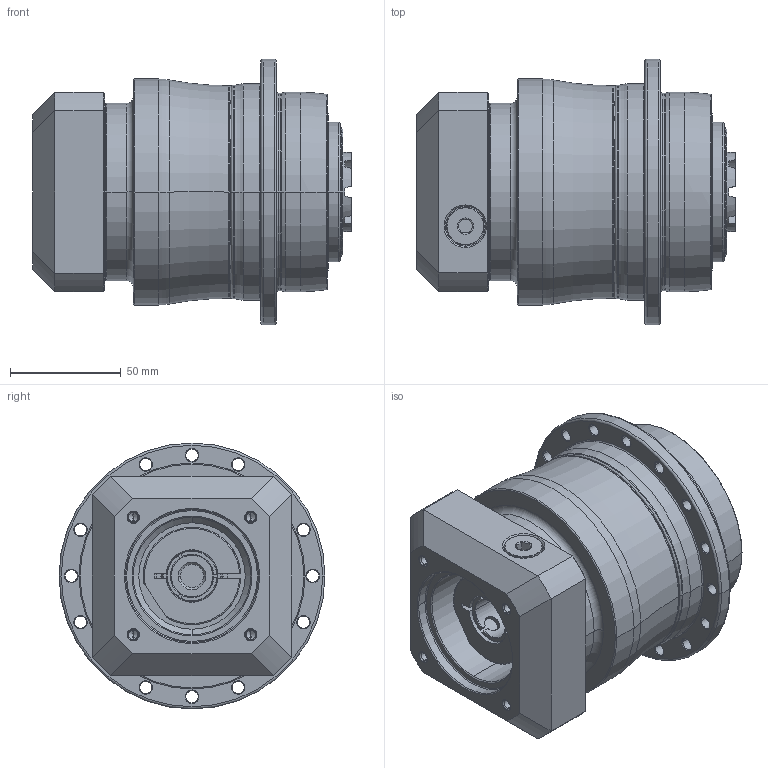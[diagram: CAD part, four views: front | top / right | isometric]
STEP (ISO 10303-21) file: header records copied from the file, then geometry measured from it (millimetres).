
FILE_DESCRIPTION((''),'2;1');
FILE_NAME('APC090_2ST_19-P0409400201_ASM','2018-10-23T',('d01226'),(''),'PRO/ENGINEER BY PARAMETRIC TECHNOLOGY CORPORATION, 2015240','PRO/ENGINEER BY PARAMETRIC TECHNOLOGY CORPORATION, 2015240','');
FILE_SCHEMA(('CONFIG_CONTROL_DESIGN'));
Length unit declared in the file: millimetre
Products named in the file (9): P0278301003; P0359330103; P1317310301; P0503400006; P0912203001; P1211300001; P0409400201; 21711412017; APC090_2ST_19-P0409400201_ASM
Assembly tree (8 placements, depth 2):
  APC090_2ST_19-P0409400201_ASM
    P0278301003
    P0359330103
    P1317310301
    P0503400006
    P0912203001
    P1211300001
    P0409400201
    21711412017
Bounding box: 143.9 x 120 x 120 mm (x, y, z)
Volume: 884472.8 mm3; surface area: 145743 mm2
Topology: 9 solids, 19 shells, 584 faces, 1387 edges, 845 vertices
Faces by surface type: cylinder 208, cone 174, plane 120, torus 68, bspline 14
Entity records: 21557 total; most frequent: CARTESIAN_POINT 7572, DIRECTION 3153, ORIENTED_EDGE 2704, EDGE_CURVE 1373, AXIS2_PLACEMENT_3D 1342, VERTEX_POINT 845, CIRCLE 745, EDGE_LOOP 672
